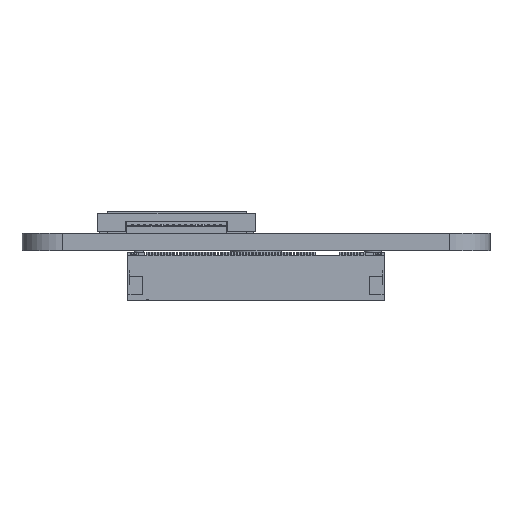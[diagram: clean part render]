
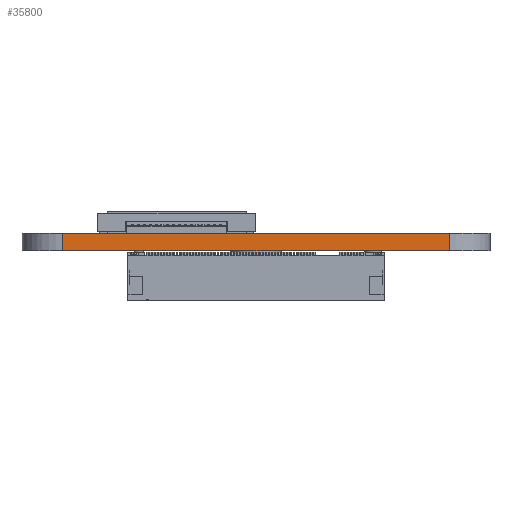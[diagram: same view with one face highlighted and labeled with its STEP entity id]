
A CAD part, front view. The second image highlights one B-rep face of the part: STEP entity #35800.
In plain terms, the highlighted planar face has unit normal (0, -1, 0).
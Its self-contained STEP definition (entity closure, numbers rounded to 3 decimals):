
#3146=FACE_OUTER_BOUND('',#5179,.T.);
#5179=EDGE_LOOP('',(#32380,#32381,#32382,#32383));
#9519=LINE('',#58756,#13865);
#9522=LINE('',#58850,#13868);
#9524=LINE('',#58935,#13870);
#9526=LINE('',#58939,#13872);
#13865=VECTOR('',#47612,1.);
#13868=VECTOR('',#47705,1.);
#13870=VECTOR('',#47793,1.);
#13872=VECTOR('',#47799,1.);
#17208=VERTEX_POINT('',#58753);
#17209=VERTEX_POINT('',#58755);
#17254=VERTEX_POINT('',#58847);
#17255=VERTEX_POINT('',#58849);
#22247=EDGE_CURVE('',#17208,#17209,#9519,.T.);
#22294=EDGE_CURVE('',#17255,#17254,#9522,.T.);
#22337=EDGE_CURVE('',#17208,#17255,#9524,.T.);
#22339=EDGE_CURVE('',#17209,#17254,#9526,.T.);
#32380=ORIENTED_EDGE('',*,*,#22337,.T.);
#32381=ORIENTED_EDGE('',*,*,#22294,.T.);
#32382=ORIENTED_EDGE('',*,*,#22339,.F.);
#32383=ORIENTED_EDGE('',*,*,#22247,.F.);
#34012=PLANE('',#38409);
#35800=ADVANCED_FACE('',(#3146),#34012,.T.);
#38409=AXIS2_PLACEMENT_3D('',#58938,#47797,#47798);
#47612=DIRECTION('',(-1.,0.,0.));
#47705=DIRECTION('',(-1.,0.,0.));
#47793=DIRECTION('',(0.,0.,1.));
#47797=DIRECTION('center_axis',(0.,-1.,0.));
#47798=DIRECTION('ref_axis',(-1.,0.,0.));
#47799=DIRECTION('',(0.,0.,1.));
#58753=CARTESIAN_POINT('',(56.9,-27.5,0.));
#58755=CARTESIAN_POINT('',(23.9,-27.5,0.));
#58756=CARTESIAN_POINT('',(56.9,-27.5,0.));
#58847=CARTESIAN_POINT('',(23.9,-27.5,1.51));
#58849=CARTESIAN_POINT('',(56.9,-27.5,1.51));
#58850=CARTESIAN_POINT('',(56.9,-27.5,1.51));
#58935=CARTESIAN_POINT('',(56.9,-27.5,0.));
#58938=CARTESIAN_POINT('Origin',(56.9,-27.5,0.));
#58939=CARTESIAN_POINT('',(23.9,-27.5,0.));
